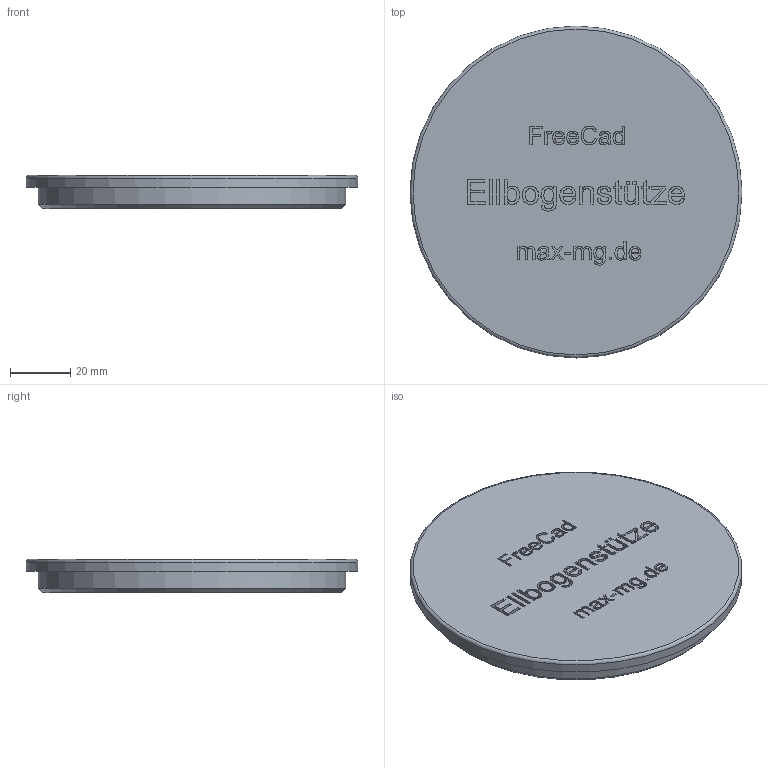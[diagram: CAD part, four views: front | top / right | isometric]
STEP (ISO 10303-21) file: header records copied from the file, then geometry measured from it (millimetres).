
FILE_DESCRIPTION(('FreeCAD Model'),'2;1');
FILE_NAME('Open CASCADE Shape Model','2025-12-23T20:04:52',(''),(''), 'Open CASCADE STEP processor 7.8','FreeCAD','Unknown');
FILE_SCHEMA(('AUTOMOTIVE_DESIGN { 1 0 10303 214 1 1 1 1 }'));
Length unit declared in the file: millimetre
Products named in the file (1): Dosendeckel mit Prägung
Bounding box: 110 x 110 x 11 mm (x, y, z)
Volume: 43453.7 mm3; surface area: 25998.3 mm2
Topology: 1 solids, 1 shells, 643 faces, 1780 edges, 1186 vertices
Faces by surface type: extrusion 401, plane 237, cylinder 3, cone 1, torus 1
Full cylindrical faces by diameter (mm): 96 x1, 102 x1, 110 x1
Entity records: 24607 total; most frequent: CARTESIAN_POINT 9712, ORIENTED_EDGE 3560, DIRECTION 1874, EDGE_CURVE 1780, VECTOR 1370, B_SPLINE_CURVE_WITH_KNOTS 1203, VERTEX_POINT 1186, LINE 969
